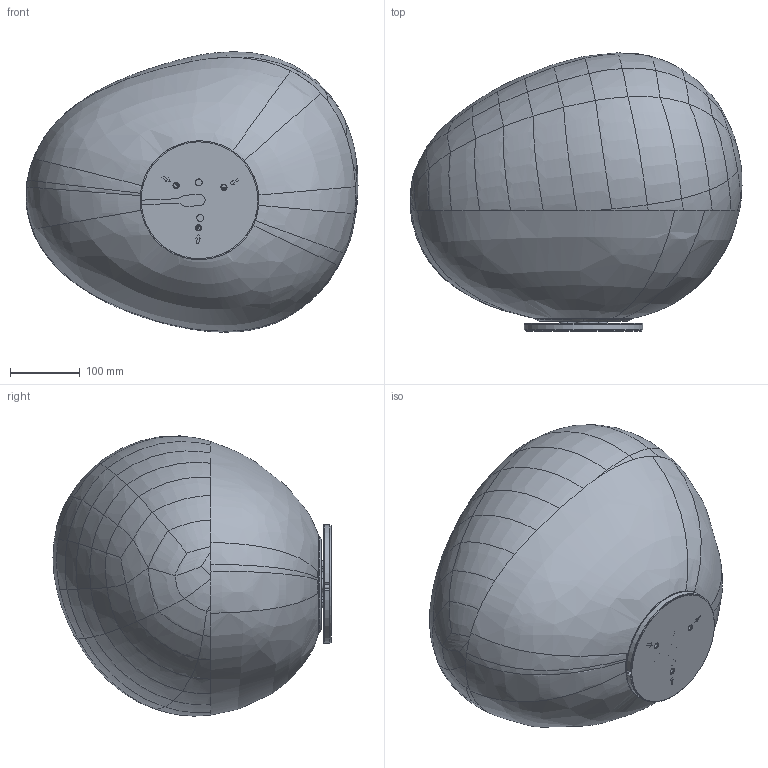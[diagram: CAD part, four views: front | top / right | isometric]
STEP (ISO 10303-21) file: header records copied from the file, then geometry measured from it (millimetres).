
FILE_DESCRIPTION (( 'STEP AP203' ), '1' );
FILE_NAME ('168_GRANDE_T_PL_3D.STEP', '2021-04-12T09:38:31', ( '' ), ( '' ), 'SwSTEP 2.0', 'SolidWorks 2021', '' );
FILE_SCHEMA (( 'CONFIG_CONTROL_DESIGN' ));
Products named in the file (1): 168_GRANDE_T_PL_3D
Bounding box: 474.62 x 397.47 x 400.5 mm (x, y, z)
Volume: 2390701.8 mm3; surface area: 1245336.9 mm2
Topology: 6 solids, 6 shells, 1739 faces, 4422 edges, 2702 vertices
Faces by surface type: bspline 941, cylinder 421, plane 252, cone 125
Entity records: 478379 total; most frequent: CARTESIAN_POINT 446101, ORIENTED_EDGE 8820, EDGE_CURVE 4410, B_SPLINE_CURVE_WITH_KNOTS 3231, DIRECTION 2913, VERTEX_POINT 2702, EDGE_LOOP 1814, ADVANCED_FACE 1739
